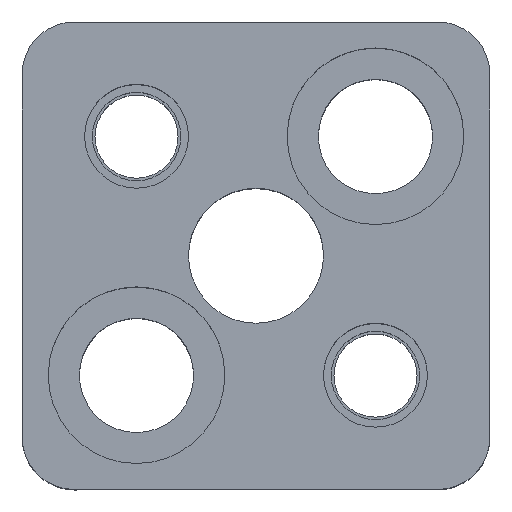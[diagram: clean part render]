
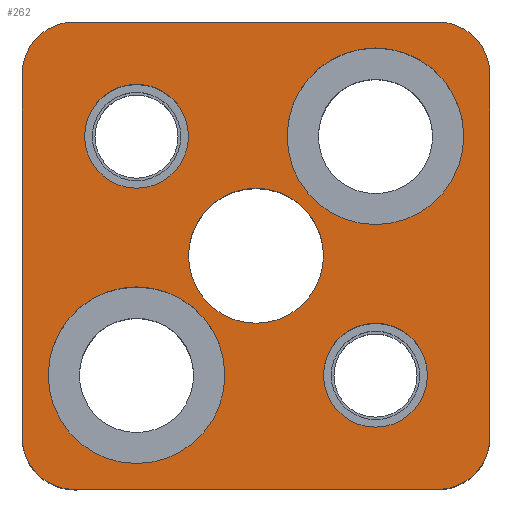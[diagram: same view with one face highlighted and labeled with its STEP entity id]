
A CAD part, top view. The second image highlights one B-rep face of the part: STEP entity #262.
In plain terms, the highlighted planar face has unit normal (0, 0, 1).
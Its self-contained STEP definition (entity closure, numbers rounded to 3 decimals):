
#111=FACE_BOUND('',#381,.T.);
#112=FACE_BOUND('',#382,.T.);
#113=FACE_BOUND('',#383,.T.);
#114=FACE_BOUND('',#384,.T.);
#115=FACE_BOUND('',#385,.T.);
#116=FACE_BOUND('',#386,.T.);
#162=CIRCLE('',#926,5.);
#164=CIRCLE('',#930,5.);
#166=CIRCLE('',#934,5.);
#168=CIRCLE('',#938,5.);
#181=CIRCLE('',#964,8.5);
#183=CIRCLE('',#967,8.5);
#185=CIRCLE('',#971,8.5);
#187=CIRCLE('',#974,8.5);
#209=CIRCLE('',#1011,5.);
#210=CIRCLE('',#1012,5.);
#211=CIRCLE('',#1013,5.);
#212=CIRCLE('',#1014,5.);
#213=CIRCLE('',#1015,6.5);
#214=CIRCLE('',#1016,6.5);
#262=ADVANCED_FACE('',(#111,#112,#113,#114,#115,#116),#287,.T.);
#287=PLANE('',#1017);
#381=EDGE_LOOP('',(#571,#572,#573,#574,#575,#576,#577,#578));
#382=EDGE_LOOP('',(#579,#580));
#383=EDGE_LOOP('',(#581,#582));
#384=EDGE_LOOP('',(#583,#584));
#385=EDGE_LOOP('',(#585,#586));
#386=EDGE_LOOP('',(#587,#588));
#571=ORIENTED_EDGE('',*,*,#724,.T.);
#572=ORIENTED_EDGE('',*,*,#721,.T.);
#573=ORIENTED_EDGE('',*,*,#718,.T.);
#574=ORIENTED_EDGE('',*,*,#715,.T.);
#575=ORIENTED_EDGE('',*,*,#712,.T.);
#576=ORIENTED_EDGE('',*,*,#709,.T.);
#577=ORIENTED_EDGE('',*,*,#730,.T.);
#578=ORIENTED_EDGE('',*,*,#727,.T.);
#579=ORIENTED_EDGE('',*,*,#801,.F.);
#580=ORIENTED_EDGE('',*,*,#802,.F.);
#581=ORIENTED_EDGE('',*,*,#803,.F.);
#582=ORIENTED_EDGE('',*,*,#804,.F.);
#583=ORIENTED_EDGE('',*,*,#769,.F.);
#584=ORIENTED_EDGE('',*,*,#765,.F.);
#585=ORIENTED_EDGE('',*,*,#763,.F.);
#586=ORIENTED_EDGE('',*,*,#759,.F.);
#587=ORIENTED_EDGE('',*,*,#805,.T.);
#588=ORIENTED_EDGE('',*,*,#806,.T.);
#635=VERTEX_POINT('',#1320);
#636=VERTEX_POINT('',#1322);
#638=VERTEX_POINT('',#1328);
#640=VERTEX_POINT('',#1334);
#642=VERTEX_POINT('',#1340);
#644=VERTEX_POINT('',#1346);
#646=VERTEX_POINT('',#1352);
#648=VERTEX_POINT('',#1358);
#665=VERTEX_POINT('',#1433);
#666=VERTEX_POINT('',#1434);
#669=VERTEX_POINT('',#1446);
#670=VERTEX_POINT('',#1447);
#693=VERTEX_POINT('',#1522);
#694=VERTEX_POINT('',#1523);
#695=VERTEX_POINT('',#1526);
#696=VERTEX_POINT('',#1527);
#697=VERTEX_POINT('',#1530);
#698=VERTEX_POINT('',#1531);
#709=EDGE_CURVE('',#636,#635,#825,.T.);
#712=EDGE_CURVE('',#638,#636,#162,.T.);
#715=EDGE_CURVE('',#640,#638,#829,.T.);
#718=EDGE_CURVE('',#642,#640,#164,.T.);
#721=EDGE_CURVE('',#644,#642,#833,.T.);
#724=EDGE_CURVE('',#646,#644,#166,.T.);
#727=EDGE_CURVE('',#648,#646,#837,.T.);
#730=EDGE_CURVE('',#635,#648,#168,.T.);
#759=EDGE_CURVE('',#665,#666,#181,.T.);
#763=EDGE_CURVE('',#666,#665,#183,.T.);
#765=EDGE_CURVE('',#669,#670,#185,.T.);
#769=EDGE_CURVE('',#670,#669,#187,.T.);
#801=EDGE_CURVE('',#693,#694,#209,.T.);
#802=EDGE_CURVE('',#694,#693,#210,.T.);
#803=EDGE_CURVE('',#695,#696,#211,.T.);
#804=EDGE_CURVE('',#696,#695,#212,.T.);
#805=EDGE_CURVE('',#697,#698,#213,.T.);
#806=EDGE_CURVE('',#698,#697,#214,.T.);
#825=LINE('',#1321,#875);
#829=LINE('',#1333,#879);
#833=LINE('',#1345,#883);
#837=LINE('',#1357,#887);
#875=VECTOR('',#1041,1.);
#879=VECTOR('',#1053,1.);
#883=VECTOR('',#1065,1.);
#887=VECTOR('',#1077,1.);
#926=AXIS2_PLACEMENT_3D('',#1327,#1047,#1048);
#930=AXIS2_PLACEMENT_3D('',#1339,#1059,#1060);
#934=AXIS2_PLACEMENT_3D('',#1351,#1071,#1072);
#938=AXIS2_PLACEMENT_3D('',#1362,#1083,#1084);
#964=AXIS2_PLACEMENT_3D('',#1432,#1147,#1148);
#967=AXIS2_PLACEMENT_3D('',#1441,#1155,#1156);
#971=AXIS2_PLACEMENT_3D('',#1445,#1163,#1164);
#974=AXIS2_PLACEMENT_3D('',#1454,#1171,#1172);
#1011=AXIS2_PLACEMENT_3D('',#1521,#1255,#1256);
#1012=AXIS2_PLACEMENT_3D('',#1524,#1257,#1258);
#1013=AXIS2_PLACEMENT_3D('',#1525,#1259,#1260);
#1014=AXIS2_PLACEMENT_3D('',#1528,#1261,#1262);
#1015=AXIS2_PLACEMENT_3D('',#1529,#1263,#1264);
#1016=AXIS2_PLACEMENT_3D('',#1532,#1265,#1266);
#1017=AXIS2_PLACEMENT_3D('',#1533,#1267,#1268);
#1041=DIRECTION('',(0.,-1.,0.));
#1047=DIRECTION('',(0.,0.,1.));
#1048=DIRECTION('',(0.707,-0.707,0.));
#1053=DIRECTION('',(-1.,0.,0.));
#1059=DIRECTION('',(0.,0.,1.));
#1060=DIRECTION('',(-0.707,-0.707,0.));
#1065=DIRECTION('',(0.,1.,0.));
#1071=DIRECTION('',(0.,0.,1.));
#1072=DIRECTION('',(-0.707,0.707,0.));
#1077=DIRECTION('',(1.,0.,0.));
#1083=DIRECTION('',(0.,0.,1.));
#1084=DIRECTION('',(0.707,0.707,0.));
#1147=DIRECTION('',(0.,0.,1.));
#1148=DIRECTION('',(-1.,0.,0.));
#1155=DIRECTION('',(0.,0.,1.));
#1156=DIRECTION('',(1.,0.,0.));
#1163=DIRECTION('',(0.,0.,1.));
#1164=DIRECTION('',(-1.,0.,0.));
#1171=DIRECTION('',(0.,0.,1.));
#1172=DIRECTION('',(1.,0.,0.));
#1255=DIRECTION('',(0.,0.,1.));
#1256=DIRECTION('',(1.,0.,0.));
#1257=DIRECTION('',(0.,0.,1.));
#1258=DIRECTION('',(-1.,0.,0.));
#1259=DIRECTION('',(0.,0.,1.));
#1260=DIRECTION('',(1.,0.,0.));
#1261=DIRECTION('',(0.,0.,1.));
#1262=DIRECTION('',(-1.,0.,0.));
#1263=DIRECTION('',(0.,0.,-1.));
#1264=DIRECTION('',(-1.,0.,0.));
#1265=DIRECTION('',(0.,0.,-1.));
#1266=DIRECTION('',(1.,0.,0.));
#1267=DIRECTION('',(0.,0.,1.));
#1268=DIRECTION('',(-1.,0.,0.));
#1320=CARTESIAN_POINT('',(-22.5,-17.5,30.));
#1321=CARTESIAN_POINT('',(-22.5,17.5,30.));
#1322=CARTESIAN_POINT('',(-22.5,17.5,30.));
#1327=CARTESIAN_POINT('',(-17.5,17.5,30.));
#1328=CARTESIAN_POINT('',(-17.5,22.5,30.));
#1333=CARTESIAN_POINT('',(-17.5,22.5,30.));
#1334=CARTESIAN_POINT('',(17.5,22.5,30.));
#1339=CARTESIAN_POINT('',(17.5,17.5,30.));
#1340=CARTESIAN_POINT('',(22.5,17.5,30.));
#1345=CARTESIAN_POINT('',(22.5,17.5,30.));
#1346=CARTESIAN_POINT('',(22.5,-17.5,30.));
#1351=CARTESIAN_POINT('',(17.5,-17.5,30.));
#1352=CARTESIAN_POINT('',(17.5,-22.5,30.));
#1357=CARTESIAN_POINT('',(-17.5,-22.5,30.));
#1358=CARTESIAN_POINT('',(-17.5,-22.5,30.));
#1362=CARTESIAN_POINT('',(-17.5,-17.5,30.));
#1432=CARTESIAN_POINT('',(-11.5,-11.5,30.));
#1433=CARTESIAN_POINT('',(-11.5,-20.,30.));
#1434=CARTESIAN_POINT('',(-11.5,-3.,30.));
#1441=CARTESIAN_POINT('',(-11.5,-11.5,30.));
#1445=CARTESIAN_POINT('',(11.5,11.5,30.));
#1446=CARTESIAN_POINT('',(11.5,3.,30.));
#1447=CARTESIAN_POINT('',(11.5,20.,30.));
#1454=CARTESIAN_POINT('',(11.5,11.5,30.));
#1521=CARTESIAN_POINT('',(-11.5,11.5,30.));
#1522=CARTESIAN_POINT('',(-11.5,16.5,30.));
#1523=CARTESIAN_POINT('',(-11.5,6.5,30.));
#1524=CARTESIAN_POINT('',(-11.5,11.5,30.));
#1525=CARTESIAN_POINT('',(11.5,-11.5,30.));
#1526=CARTESIAN_POINT('',(11.5,-6.5,30.));
#1527=CARTESIAN_POINT('',(11.5,-16.5,30.));
#1528=CARTESIAN_POINT('',(11.5,-11.5,30.));
#1529=CARTESIAN_POINT('',(0.,0.,30.));
#1530=CARTESIAN_POINT('',(0.,6.5,30.));
#1531=CARTESIAN_POINT('',(0.,-6.5,30.));
#1532=CARTESIAN_POINT('',(0.,0.,30.));
#1533=CARTESIAN_POINT('',(17.5,-22.5,30.));
